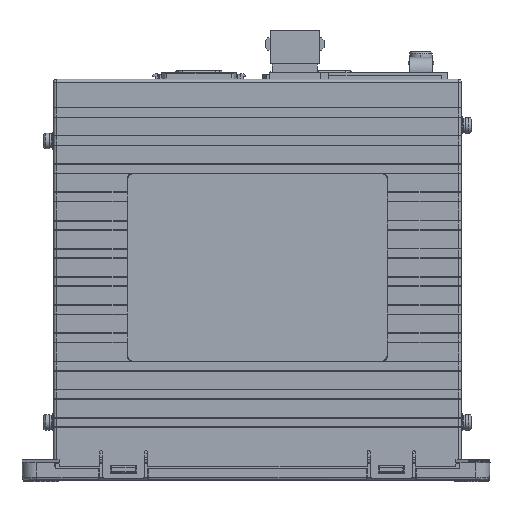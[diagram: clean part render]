
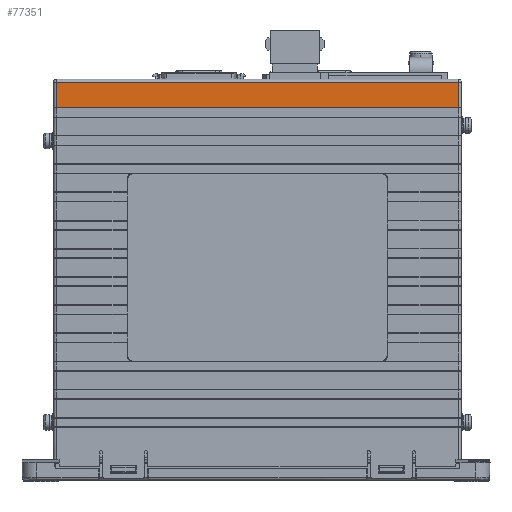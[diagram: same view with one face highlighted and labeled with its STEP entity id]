
A CAD part, left-side view. The second image highlights one B-rep face of the part: STEP entity #77351.
In plain terms, the highlighted planar face has unit normal (-1, 0, 0).
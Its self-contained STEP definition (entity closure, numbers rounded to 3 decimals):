
#1119 = VERTEX_POINT ( 'NONE', #135958 ) ;
#2812 = DIRECTION ( 'NONE',  ( 0., 0., 1. ) ) ;
#5173 = VERTEX_POINT ( 'NONE', #28082 ) ;
#7800 = DIRECTION ( 'NONE',  ( 0., -1., 0. ) ) ;
#13376 = PLANE ( 'NONE',  #58285 ) ;
#19954 = CARTESIAN_POINT ( 'NONE',  ( 0., -72.8, 122.695 ) ) ;
#26708 = VECTOR ( 'NONE', #74889, 1000. ) ;
#27392 = ORIENTED_EDGE ( 'NONE', *, *, #73423, .F. ) ;
#27929 = EDGE_CURVE ( 'NONE', #1119, #5173, #120579, .T. ) ;
#28082 = CARTESIAN_POINT ( 'NONE',  ( 0., -71.3, 122.695 ) ) ;
#31071 = VECTOR ( 'NONE', #89653, 1000. ) ;
#43173 = CARTESIAN_POINT ( 'NONE',  ( 0., 71.3, 316.242 ) ) ;
#47525 = ORIENTED_EDGE ( 'NONE', *, *, #81021, .T. ) ;
#49215 = CARTESIAN_POINT ( 'NONE',  ( 0., -72.8, 130.695 ) ) ;
#58285 = AXIS2_PLACEMENT_3D ( 'NONE', #49215, #75077, #2812 ) ;
#60121 = ORIENTED_EDGE ( 'NONE', *, *, #27929, .T. ) ;
#61934 = LINE ( 'NONE', #43173, #97853 ) ;
#73423 = EDGE_CURVE ( 'NONE', #110593, #5173, #123743, .T. ) ;
#74889 = DIRECTION ( 'NONE',  ( 0., 1., 0. ) ) ;
#75077 = DIRECTION ( 'NONE',  ( -1., 0., 0. ) ) ;
#76363 = EDGE_LOOP ( 'NONE', ( #27392, #47525, #123030, #60121 ) ) ;
#77351 = ADVANCED_FACE ( 'NONE', ( #96907 ), #13376, .T. ) ;
#81021 = EDGE_CURVE ( 'NONE', #110593, #112374, #90907, .T. ) ;
#85246 = CARTESIAN_POINT ( 'NONE',  ( 0., -71.3, 131.695 ) ) ;
#89653 = DIRECTION ( 'NONE',  ( 0., 0., -1. ) ) ;
#90907 = LINE ( 'NONE', #123490, #26708 ) ;
#96291 = EDGE_CURVE ( 'NONE', #1119, #112374, #61934, .T. ) ;
#96907 = FACE_OUTER_BOUND ( 'NONE', #76363, .T. ) ;
#97853 = VECTOR ( 'NONE', #127692, 1000. ) ;
#110593 = VERTEX_POINT ( 'NONE', #85246 ) ;
#112374 = VERTEX_POINT ( 'NONE', #129773 ) ;
#120579 = LINE ( 'NONE', #19954, #156504 ) ;
#123030 = ORIENTED_EDGE ( 'NONE', *, *, #96291, .F. ) ;
#123490 = CARTESIAN_POINT ( 'NONE',  ( 0., -72.8, 131.695 ) ) ;
#123743 = LINE ( 'NONE', #137741, #31071 ) ;
#127692 = DIRECTION ( 'NONE',  ( 0., 0., 1. ) ) ;
#129773 = CARTESIAN_POINT ( 'NONE',  ( 0., 71.3, 131.695 ) ) ;
#135958 = CARTESIAN_POINT ( 'NONE',  ( 0., 71.3, 122.695 ) ) ;
#137741 = CARTESIAN_POINT ( 'NONE',  ( 0., -71.3, -191.652 ) ) ;
#156504 = VECTOR ( 'NONE', #7800, 1000. ) ;
